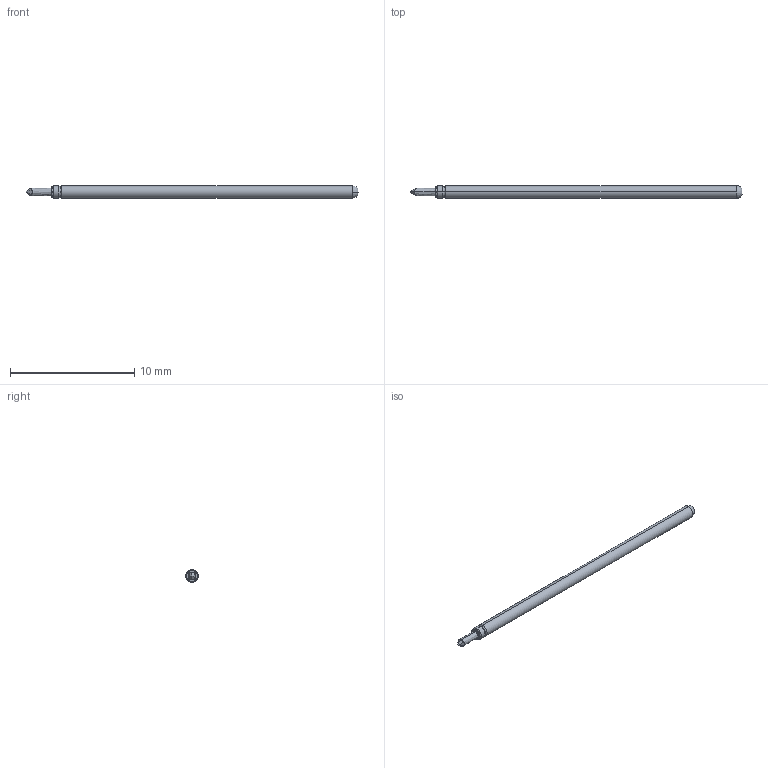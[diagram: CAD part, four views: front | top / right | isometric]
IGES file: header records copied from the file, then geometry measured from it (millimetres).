
Start section: SolidWorks IGES file using analytic representation for surfaces
Global section: file name: Z:\probe solid model mockups\Solidworks models\Parts\LFRE-1I8 FULL.IGS; native system: SolidWorks 2016; preprocessor: SolidWorks 2016; author: mlee; date: 180927.163403; units: inch
Bounding box: 26.67 x 1.02 x 1.02 mm (x, y, z)
Surface area: 82.8 mm2 (no closed solid volume)
Topology: 0 solids, 0 shells, 24 faces, 170 edges, 170 vertices
Faces by surface type: bspline 12, revolution 12
